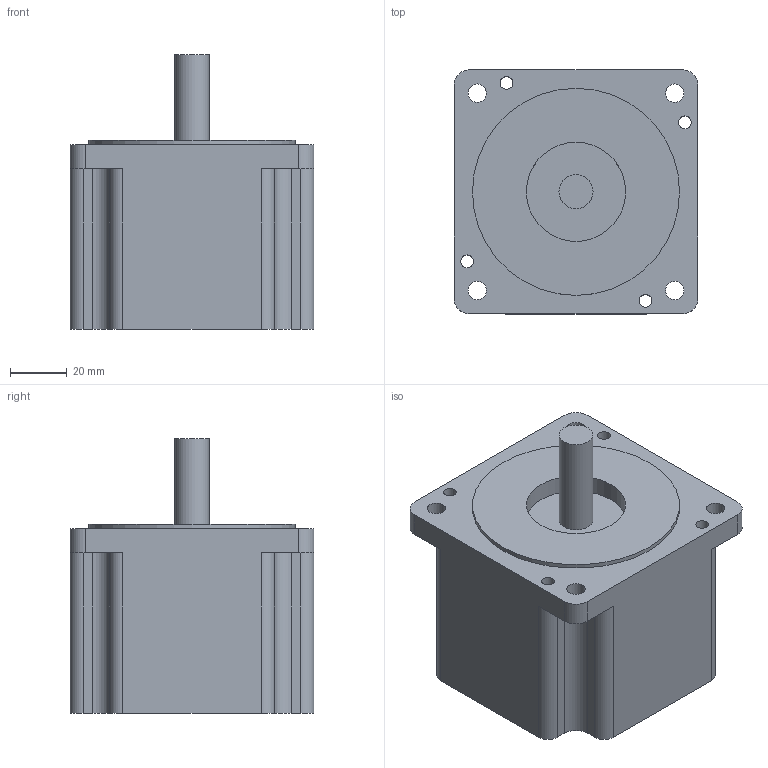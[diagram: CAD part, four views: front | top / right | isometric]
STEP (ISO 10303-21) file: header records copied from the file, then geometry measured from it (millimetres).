
FILE_DESCRIPTION(/* description */ (''),/* implementation_level */ '2;1');
FILE_NAME(/* name */ 'C:\Users\raffaele\Downloads\Projects\E&D\ipt-to-step-conversion\SLDPRT to STP\86SH65.stp',/* time_stamp */ '2021-04-07T17:16:34+02:00',/* author */ ('raffaele'),/* organization */ (''),/* preprocessor_version */ 'ST-DEVELOPER v18.1',/* originating_system */ 'Autodesk Inventor 2021',/* authorisation */ '');
FILE_SCHEMA (('AUTOMOTIVE_DESIGN { 1 0 10303 214 3 1 1 }'));
Length unit declared in the file: millimetre
Products named in the file (1): 86SH65
Bounding box: 86 x 86 x 96.85 mm (x, y, z)
Volume: 435747 mm3; surface area: 42014 mm2
Topology: 1 solids, 1 shells, 48 faces, 129 edges, 86 vertices
Faces by surface type: cylinder 27, plane 21
Full cylindrical faces by diameter (mm): 4.5 x4, 6.5 x4, 12 x1, 35 x1, 73 x1
Entity records: 1600 total; most frequent: DIRECTION 281, CARTESIAN_POINT 264, ORIENTED_EDGE 258, EDGE_CURVE 129, AXIS2_PLACEMENT_3D 103, VERTEX_POINT 86, LINE 75, VECTOR 75
